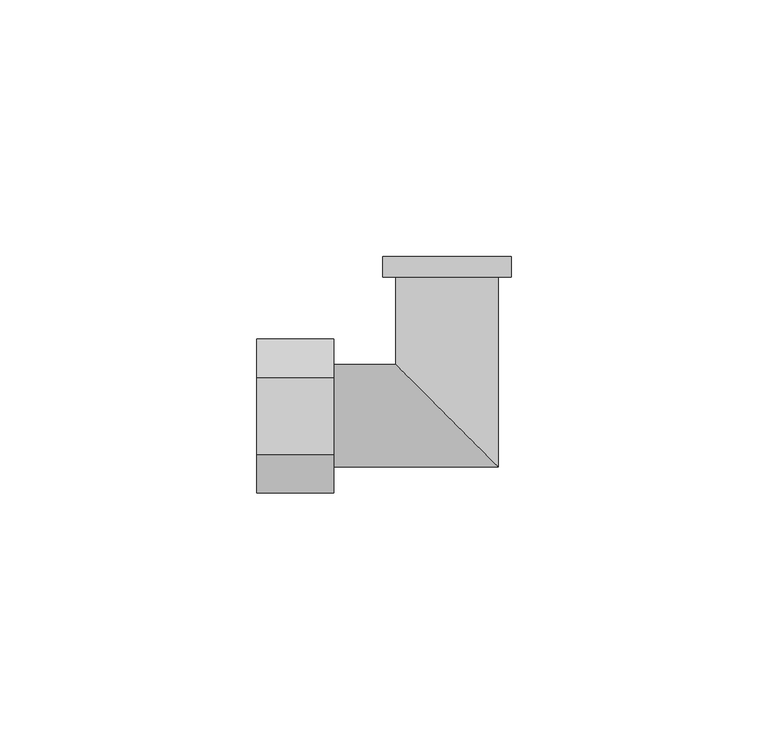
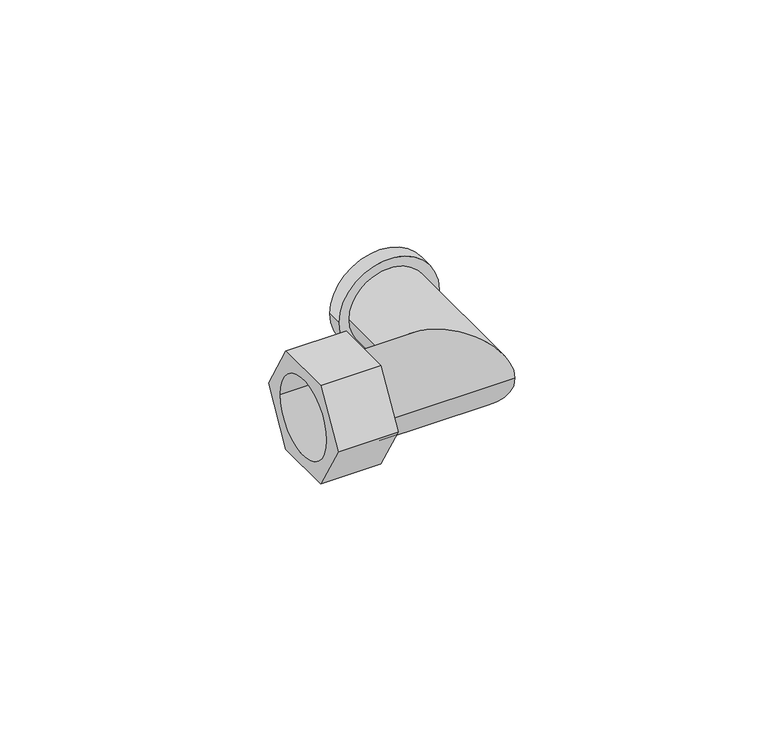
"""IFC4 building model written with IfcOpenShell, lengths in millimetres: pipe fitting geometry, БИР ПЕКС_КМП_Угольник_Резьба_Наружная : Угольник с наружной резьбой_КМП."""

from ifc_helpers import new_model, si_unit, point, frame, origin, origin_2d, place, context, project, spatial, polyline, circle_curve, ellipse_curve, trimmed, segment, composite_curve, outline, extrude, source, transform, mapped, element, save
from ifc_brep_helpers import plane_surface, cylinder_surface, revolved_surface, advanced_brep


def pipe_fitting_d6f7a5c7(model_context):
    return source(origin(), model_context, "Body", "SolidModel", [
        extrude(outline(polyline([(-7.5, -12.9903811), (-15.0, 0.0), (-7.5, 12.9903811), (7.5, 12.9903811), (15.0, 0.0), (7.5, -12.9903811), (-7.5, -12.9903811)]), holes=[composite_curve([segment(trimmed(circle_curve(origin_2d(), 10.0), [point((-10.0, 0.0))], [point((10.0, 0.0))], True, "CARTESIAN"), True, "CONTINUOUS"), segment(trimmed(circle_curve(origin_2d(), 10.0), [point((10.0, 0.0))], [point((-10.0, 0.0))], True, "CARTESIAN"), True, "CONTINUOUS")], self_intersect=False)]), frame((-37.0, 0.0, 0.0), z_axis=(1.0, 0.0, 0.0), x_axis=(0.0, 1.0, 0.0)), (0.0, 0.0, 1.0), 15.0),
        advanced_brep(
        [(-22.0, -10.0, 0.0), (-22.0, 10.0, 0.0), (-22.0, -9.5, 0.0), (-22.0, 9.5, 0.0), (10.0, -10.0, 0.0), (-10.0, 10.0, 0.0), (-12.5, 31.0, 0.0), (12.5, 31.0, 0.0), (9.5, 31.0, 0.0), (-9.5, 31.0, 0.0), (10.0, 27.0, 0.0), (-10.0, 27.0, 0.0), (-12.5, 27.0, 0.0), (12.5, 27.0, 0.0), (9.5, -9.5, 0.0), (-9.5, 9.5, 0.0), (-9.5, 27.0, 0.0), (9.5, 27.0, 0.0)],
        [
            (0, 1, circle_curve(frame((-22.0, 0.0, 0.0), z_axis=(-1.0, 0.0, 0.0), x_axis=(0.0, 1.0, 0.0)), 10.0)),
            (1, 0, circle_curve(frame((-22.0, 0.0, 0.0), z_axis=(-1.0, 0.0, 0.0), x_axis=(0.0, 1.0, 0.0)), 10.0)),
            (2, 3, circle_curve(frame((-22.0, 0.0, 0.0), z_axis=(1.0, 0.0, 0.0), x_axis=(0.0, 1.0, 0.0)), 9.5)),
            (3, 2, circle_curve(frame((-22.0, 0.0, 0.0), z_axis=(1.0, 0.0, 0.0), x_axis=(0.0, 1.0, 0.0)), 9.5)),
            (0, 4),
            (4, 5, ellipse_curve(frame((0.0, 0.0, 0.0), z_axis=(-0.7071067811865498, -0.7071067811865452, 0.0), x_axis=(-0.7071067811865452, 0.7071067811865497, 0.0)), 14.1421356, 10.0)),
            (5, 1),
            (5, 4, ellipse_curve(frame((0.0, 0.0, 0.0), z_axis=(-0.7071067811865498, -0.7071067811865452, 0.0), x_axis=(-0.7071067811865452, 0.7071067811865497, 0.0)), 14.1421356, 10.0)),
            (6, 7, circle_curve(frame((0.0, 31.0, 0.0), z_axis=(0.0, 1.0, 0.0), x_axis=(1.0, 0.0, 0.0)), 12.5)),
            (7, 6, circle_curve(frame((0.0, 31.0, 0.0), z_axis=(0.0, 1.0, 0.0), x_axis=(1.0, 0.0, 0.0)), 12.5)),
            (8, 9, circle_curve(frame((0.0, 31.0, 0.0), z_axis=(0.0, -1.0, 0.0), x_axis=(-1.0, 0.0, 0.0)), 9.5)),
            (9, 8, circle_curve(frame((0.0, 31.0, 0.0), z_axis=(0.0, -1.0, 0.0), x_axis=(-1.0, 0.0, 0.0)), 9.5)),
            (4, 10),
            (10, 11, circle_curve(frame((0.0, 27.0, 0.0), z_axis=(0.0, -1.0, 0.0), x_axis=(-1.0, 0.0, 0.0)), 10.0)),
            (11, 5),
            (11, 10, circle_curve(frame((0.0, 27.0, 0.0), z_axis=(0.0, -1.0, 0.0), x_axis=(-1.0, 0.0, 0.0)), 10.0)),
            (12, 13, circle_curve(frame((0.0, 27.0, 0.0), z_axis=(0.0, -1.0, 0.0), x_axis=(1.0, 0.0, 0.0)), 12.5)),
            (13, 12, circle_curve(frame((0.0, 27.0, 0.0), z_axis=(0.0, -1.0, 0.0), x_axis=(1.0, 0.0, 0.0)), 12.5)),
            (12, 6),
            (7, 13),
            (2, 14),
            (14, 15, ellipse_curve(frame((0.0, 0.0, 0.0), z_axis=(0.7071067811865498, 0.7071067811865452, 0.0), x_axis=(0.7071067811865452, -0.7071067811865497, 0.0)), 13.4350288, 9.5)),
            (15, 3),
            (15, 14, ellipse_curve(frame((0.0, 0.0, 0.0), z_axis=(0.7071067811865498, 0.7071067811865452, 0.0), x_axis=(0.7071067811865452, -0.7071067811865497, 0.0)), 13.4350288, 9.5)),
            (9, 16),
            (16, 15),
            (14, 17),
            (17, 8),
        ],
        [
            plane_surface(frame((-22.0, 0.0, 0.0), z_axis=(-1.0, 0.0, 0.0), x_axis=(0.0, 0.0, 1.0))),
            cylinder_surface(frame((-22.0, 0.0, 0.0), z_axis=(-1.0, 0.0, 0.0), x_axis=(0.0, 1.0, 0.0)), 10.0),
            plane_surface(frame((0.0, 31.0, 0.0), z_axis=(0.0, 1.0, 0.0), x_axis=(0.0, 0.0, 1.0))),
            cylinder_surface(frame((0.0, 0.0, 0.0), z_axis=(0.0, -1.0, 0.0), x_axis=(-1.0, 0.0, 0.0)), 10.0),
            plane_surface(frame((12.5, 27.0, 0.0), z_axis=(0.0, -1.0, 0.0), x_axis=(0.0, 0.0, 1.0))),
            cylinder_surface(frame((0.0, 31.0, 0.0), z_axis=(0.0, -1.0, 0.0), x_axis=(1.0, 0.0, 0.0)), 12.5),
            revolved_surface(polyline([(9.5, 9.5, 0.0), (-22.0, 9.5, 0.0)]), (-22.0, 0.0, 0.0), (1.0, 0.0, 0.0)),
            revolved_surface(polyline([(-9.5, 31.0, 0.0), (-9.5, -9.5, 0.0)]), (0.0, 0.0, 0.0), (0.0, 1.0, 0.0)),
        ],
        [
            (0, [[1, 2], [3, 4]]),
            (1, [[-1, 5, 6, 7]]),
            (1, [[-2, -7, 8, -5]]),
            (2, [[9, 10], [11, 12]]),
            (3, [[-6, 13, 14, 15]]),
            (3, [[-8, -15, 16, -13]]),
            (4, [[17, 18], [-14, -16]]),
            (5, [[-17, 19, -10, 20]]),
            (5, [[-18, -20, -9, -19]]),
            (6, [[-3, 21, 22, 23]]),
            (6, [[-4, -23, 24, -21]]),
            (7, [[-12, 25, 26, -22, 27, 28]]),
            (7, [[-11, -28, -27, -24, -26, -25]]),
        ],
    ),
    ])


if __name__ == "__main__":
    model = new_model("IFC4")
    model_context = context("Model", 3, world=origin())
    ifc_project = project(units=[si_unit("LENGTHUNIT", "METRE", prefix="MILLI")], contexts=[model_context])
    site = spatial("IfcSite", under=ifc_project)
    building = spatial("IfcBuilding", under=site)
    placement = place(None, origin())
    pipe_fitting_shape = pipe_fitting_d6f7a5c7(model_context)
    element("IfcPipeFitting", 1, ObjectType="БИР ПЕКС_КМП_Угольник_Резьба_Наружная : Угольник с наружной резьбой_КМП", at=placement, inside=building, context=model_context, shape_type="MappedRepresentation", body=[
        mapped(pipe_fitting_shape, transform((0.0, 0.0, 0.0), x_axis=(1.0, 0.0, 0.0), y_axis=(0.0, 1.0, 0.0), z_axis=(0.0, 0.0, 1.0))),
    ])
    save(model, "model.ifc")
